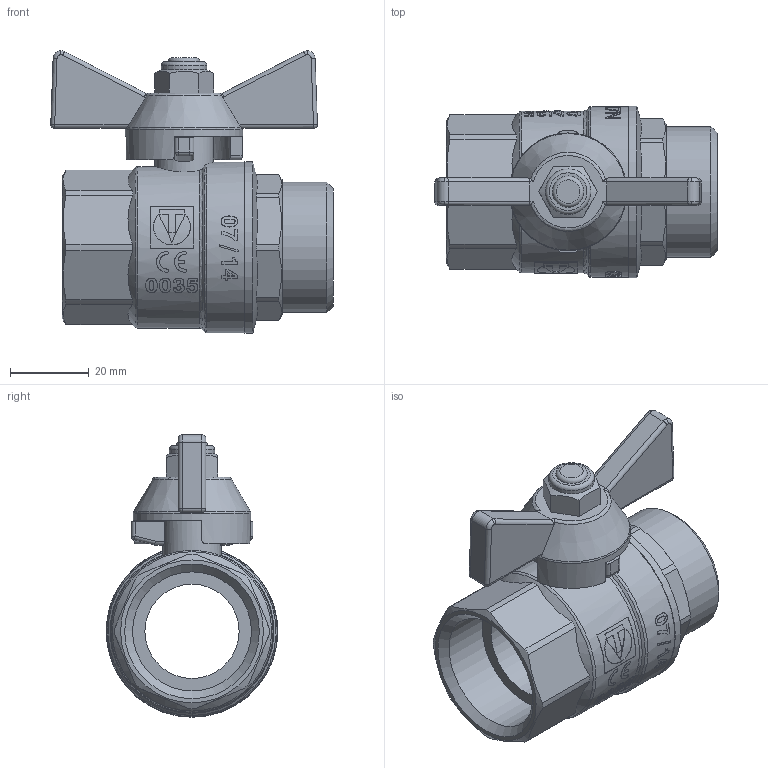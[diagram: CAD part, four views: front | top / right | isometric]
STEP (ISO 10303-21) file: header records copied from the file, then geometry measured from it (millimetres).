
FILE_DESCRIPTION(('TFLEX Exchange Step'),'2;1');
FILE_NAME('Ball valve DN25, 1 VT.218.N.06 Valtec.stp', '2023-09-12T15:24:28+03:00',('denis'),('Unknown organisation'),'TFLEX Exchange 2023.0','T-FLEX CAD','Unknown authorisation');
FILE_SCHEMA( ('AUTOMOTIVE_DESIGN { 1 0 10303 214 1 1 1 1 }') );
Length unit declared in the file: millimetre
Products named in the file (1): Nodes
Bounding box: 71.96 x 43.75 x 71.96 mm (x, y, z)
Volume: 60696.5 mm3; surface area: 21211.4 mm2
Topology: 3 solids, 3 shells, 522 faces, 1380 edges, 900 vertices
Faces by surface type: plane 206, bspline 175, cylinder 105, torus 17, cone 11, sphere 8
Full cylindrical faces by diameter (mm): 11.6 x1, 14.932 x1, 24 x1, 30 x1, 30.3 x1, 33.2 x1, 41.177 x1, 43.45 x1, 43.75 x1
Entity records: 22642 total; most frequent: CARTESIAN_POINT 11156, ORIENTED_EDGE 2744, DIRECTION 1763, EDGE_CURVE 1372, VERTEX_POINT 900, AXIS2_PLACEMENT_3D 670, B_SPLINE_CURVE_WITH_KNOTS 625, EDGE_LOOP 568
